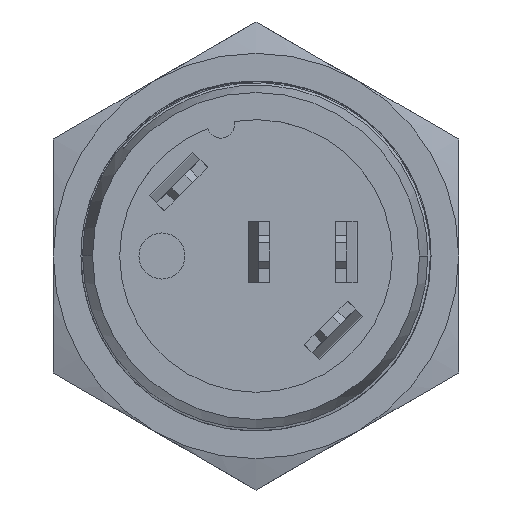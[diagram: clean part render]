
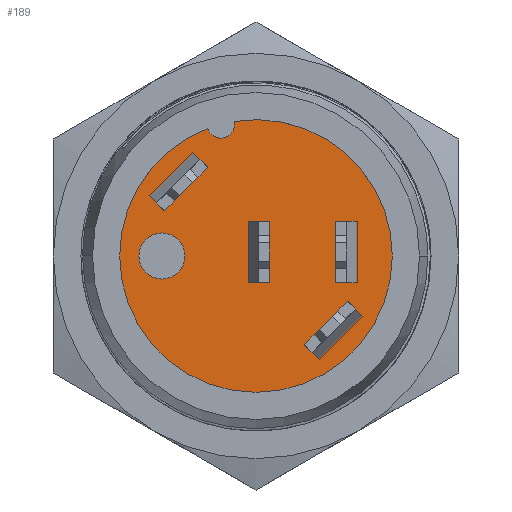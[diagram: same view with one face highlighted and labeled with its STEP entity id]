
A CAD part, front view. The second image highlights one B-rep face of the part: STEP entity #189.
In plain terms, the highlighted planar face has unit normal (0, -1, 0).
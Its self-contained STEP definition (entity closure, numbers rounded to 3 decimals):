
#42=CARTESIAN_POINT('',(-1.915,-2.45,7.148));
#43=DIRECTION('',(0.,-1.,0.));
#44=DIRECTION('',(-0.952,0.,-0.307));
#45=AXIS2_PLACEMENT_3D('',#42,#43,#44);
#47=CARTESIAN_POINT('',(-1.915,-2.45,7.148));
#48=DIRECTION('',(0.,-1.,0.));
#49=DIRECTION('',(0.259,0.,-0.966));
#50=AXIS2_PLACEMENT_3D('',#47,#48,#49);
#52=CARTESIAN_POINT('',(0.,-2.45,0.));
#53=DIRECTION('',(0.,1.,0.));
#54=DIRECTION('',(-0.16,0.,0.987));
#55=AXIS2_PLACEMENT_3D('',#52,#53,#54);
#57=CARTESIAN_POINT('',(0.,-2.45,0.));
#58=DIRECTION('',(0.,1.,0.));
#59=DIRECTION('',(1.,0.,0.));
#60=AXIS2_PLACEMENT_3D('',#57,#58,#59);
#62=CARTESIAN_POINT('',(0.,-2.45,0.));
#63=DIRECTION('',(0.,1.,0.));
#64=DIRECTION('',(-1.,0.,0.));
#65=AXIS2_PLACEMENT_3D('',#62,#63,#64);
#109=CARTESIAN_POINT('',(-1.182,-2.45,7.305));
#111=VERTEX_POINT('',#109);
#114=CARTESIAN_POINT('',(-2.629,-2.45,6.917));
#115=VERTEX_POINT('',#114);
#116=CARTESIAN_POINT('',(-7.4,-2.45,0.));
#117=VERTEX_POINT('',#116);
#118=CARTESIAN_POINT('',(7.4,-2.45,0.));
#119=VERTEX_POINT('',#118);
#120=CARTESIAN_POINT('',(-1.721,-2.45,6.423));
#121=VERTEX_POINT('',#120);
#176=CARTESIAN_POINT('',(0.,-2.45,0.));
#177=DIRECTION('',(0.,1.,0.));
#178=DIRECTION('',(1.,0.,0.));
#179=AXIS2_PLACEMENT_3D('',#176,#177,#178);
#180=PLANE('',#179);
#181=ORIENTED_EDGE('',*,*,#165,.T.);
#182=ORIENTED_EDGE('',*,*,#163,.T.);
#183=ORIENTED_EDGE('',*,*,#153,.T.);
#185=ORIENTED_EDGE('',*,*,#184,.T.);
#186=ORIENTED_EDGE('',*,*,#145,.T.);
#187=EDGE_LOOP('',(#181,#182,#183,#185,#186));
#188=FACE_OUTER_BOUND('',#187,.F.);
#189=ADVANCED_FACE('',(#188),#180,.F.);
#46=CIRCLE('',#45,0.75);
#51=CIRCLE('',#50,0.75);
#56=CIRCLE('',#55,7.4);
#61=CIRCLE('',#60,7.4);
#66=CIRCLE('',#65,7.4);
#145=EDGE_CURVE('',#117,#115,#66,.T.);
#153=EDGE_CURVE('',#111,#119,#56,.T.);
#163=EDGE_CURVE('',#121,#111,#51,.T.);
#165=EDGE_CURVE('',#115,#121,#46,.T.);
#184=EDGE_CURVE('',#119,#117,#61,.T.);
